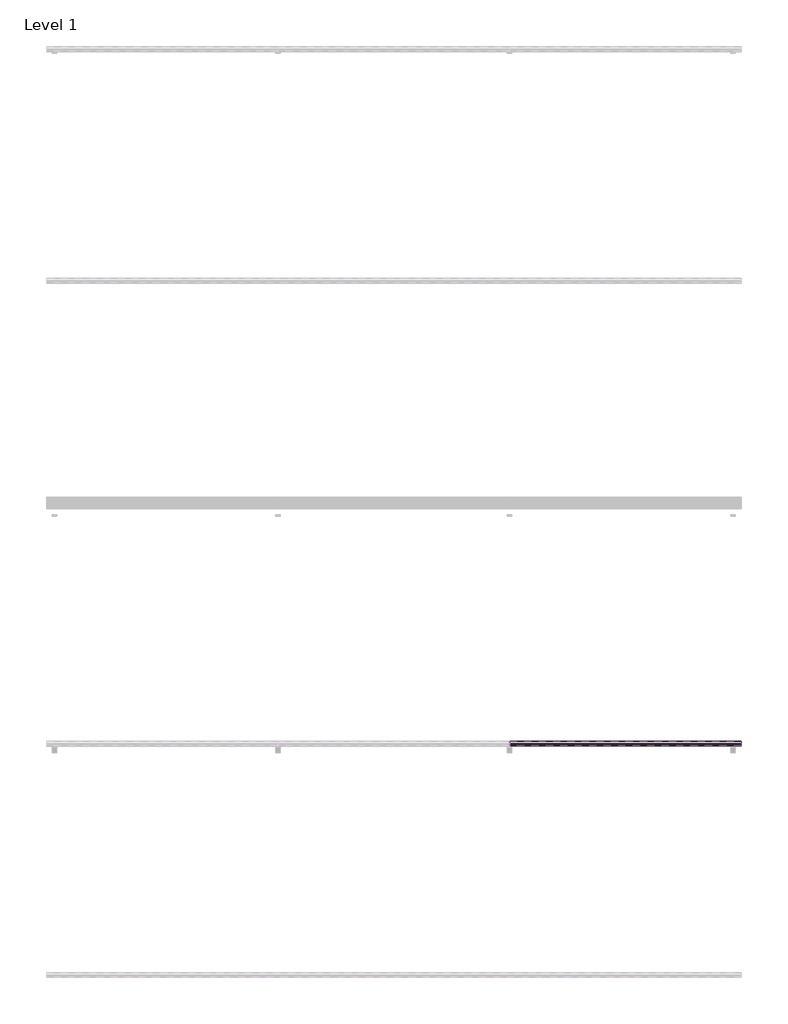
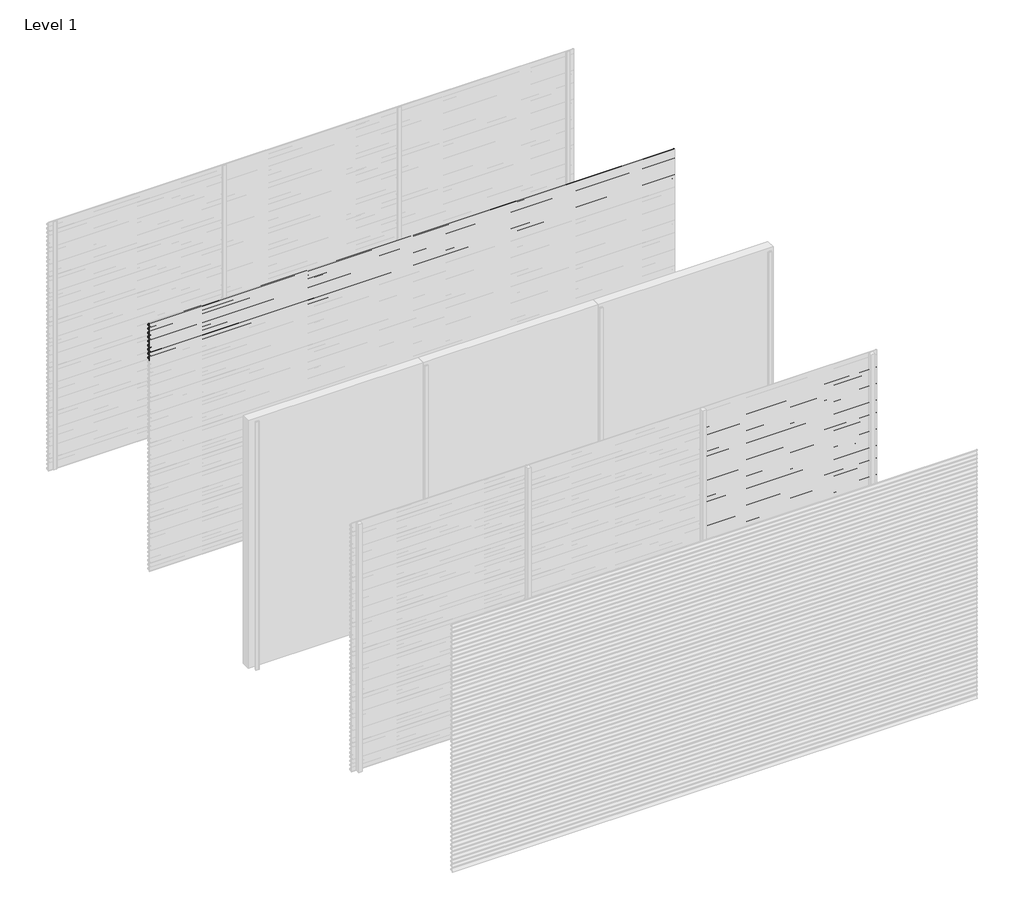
# One storey, part 20 of 38: 66 proxies.
"""IFC4 building model written with IfcOpenShell, lengths in millimetres."""

from ifc_helpers import new_model, si_unit, frame, origin, place, context, project, spatial, polyline, outline, extrude, element, save

model = new_model("IFC4")

# Units and contexts
model_context = context("Model", 3, world=origin())
ifc_project = project(units=[si_unit("LENGTHUNIT", "METRE", prefix="MILLI")], contexts=[model_context])

# Site, building, storey
site = spatial("IfcSite", under=ifc_project)
building = spatial("IfcBuilding", under=site)
storey = spatial("IfcBuildingStorey", under=building, Name="Level 1", Elevation=0.0)

# Proxies
placement = place(None, origin())
element("IfcBuildingElementProxy", 1, Name="Wall Sweeps", at=placement, inside=storey, context=model_context, shape_type="SweptSolid", body=[
    extrude(outline(polyline([(-25996.75, 3000.0), (-25996.75, 2989.19656), (-25974.6057113, 2976.4115489), (-25957.0, 2959.0472005), (-25957.0, 2944.0472005), (-25958.3, 2945.0268207), (-25958.3, 2958.5034593), (-25969.4914725, 2969.541504), (-25994.2797376, 2940.0), (-25995.9767671, 2940.0), (-25970.4200307, 2970.4573323), (-25975.3999793, 2975.3690091), (-25998.0, 2988.4171371), (-25998.0, 3000.0), (-25996.75, 3000.0)])), frame((0.0, 0.0, 0.0), z_axis=(1.0, 0.0, 0.0), x_axis=(0.0, 1.0, 0.0)), (0.0, 0.0, 1.0), 6000.0),
])
element("IfcBuildingElementProxy", 2, Name="Wall Sweeps", at=placement, inside=storey, context=model_context, shape_type="SweptSolid", body=[
    extrude(outline(polyline([(-25996.75, 2950.0), (-25996.75, 2939.19656), (-25974.6057113, 2926.4115489), (-25957.0, 2909.0472005), (-25957.0, 2894.0472005), (-25958.3, 2895.0268207), (-25958.3, 2908.5034593), (-25969.4914725, 2919.541504), (-25994.2797376, 2890.0), (-25995.9767671, 2890.0), (-25970.4200307, 2920.4573323), (-25975.3999793, 2925.3690091), (-25998.0, 2938.4171371), (-25998.0, 2950.0), (-25996.75, 2950.0)])), frame((0.0, 0.0, 0.0), z_axis=(1.0, 0.0, 0.0), x_axis=(0.0, 1.0, 0.0)), (0.0, 0.0, 1.0), 6000.0),
])
element("IfcBuildingElementProxy", 3, Name="Wall Sweeps", at=placement, inside=storey, context=model_context, shape_type="SweptSolid", body=[
    extrude(outline(polyline([(-25996.75, 2900.0), (-25996.75, 2889.19656), (-25974.6057113, 2876.4115489), (-25957.0, 2859.0472005), (-25957.0, 2844.0472005), (-25958.3, 2845.0268207), (-25958.3, 2858.5034593), (-25969.4914725, 2869.541504), (-25994.2797376, 2840.0), (-25995.9767671, 2840.0), (-25970.4200307, 2870.4573323), (-25975.3999793, 2875.3690091), (-25998.0, 2888.4171371), (-25998.0, 2900.0), (-25996.75, 2900.0)])), frame((0.0, 0.0, 0.0), z_axis=(1.0, 0.0, 0.0), x_axis=(0.0, 1.0, 0.0)), (0.0, 0.0, 1.0), 6000.0),
])
element("IfcBuildingElementProxy", 4, Name="Wall Sweeps", at=placement, inside=storey, context=model_context, shape_type="SweptSolid", body=[
    extrude(outline(polyline([(-25996.75, 2850.0), (-25996.75, 2839.19656), (-25974.6057113, 2826.4115489), (-25957.0, 2809.0472005), (-25957.0, 2794.0472005), (-25958.3, 2795.0268207), (-25958.3, 2808.5034593), (-25969.4914725, 2819.541504), (-25994.2797376, 2790.0), (-25995.9767671, 2790.0), (-25970.4200307, 2820.4573323), (-25975.3999793, 2825.3690091), (-25998.0, 2838.4171371), (-25998.0, 2850.0), (-25996.75, 2850.0)])), frame((0.0, 0.0, 0.0), z_axis=(1.0, 0.0, 0.0), x_axis=(0.0, 1.0, 0.0)), (0.0, 0.0, 1.0), 6000.0),
])
element("IfcBuildingElementProxy", 5, Name="Wall Sweeps", at=placement, inside=storey, context=model_context, shape_type="SweptSolid", body=[
    extrude(outline(polyline([(-25996.75, 2800.0), (-25996.75, 2789.19656), (-25974.6057113, 2776.4115489), (-25957.0, 2759.0472005), (-25957.0, 2744.0472005), (-25958.3, 2745.0268207), (-25958.3, 2758.5034593), (-25969.4914725, 2769.541504), (-25994.2797376, 2740.0), (-25995.9767671, 2740.0), (-25970.4200307, 2770.4573323), (-25975.3999793, 2775.3690091), (-25998.0, 2788.4171371), (-25998.0, 2800.0), (-25996.75, 2800.0)])), frame((0.0, 0.0, 0.0), z_axis=(1.0, 0.0, 0.0), x_axis=(0.0, 1.0, 0.0)), (0.0, 0.0, 1.0), 6000.0),
])
element("IfcBuildingElementProxy", 6, Name="Wall Sweeps", at=placement, inside=storey, context=model_context, shape_type="SweptSolid", body=[
    extrude(outline(polyline([(-25996.75, 2750.0), (-25996.75, 2739.19656), (-25974.6057113, 2726.4115489), (-25957.0, 2709.0472005), (-25957.0, 2694.0472005), (-25958.3, 2695.0268207), (-25958.3, 2708.5034593), (-25969.4914725, 2719.541504), (-25994.2797376, 2690.0), (-25995.9767671, 2690.0), (-25970.4200307, 2720.4573323), (-25975.3999793, 2725.3690091), (-25998.0, 2738.4171371), (-25998.0, 2750.0), (-25996.75, 2750.0)])), frame((0.0, 0.0, 0.0), z_axis=(1.0, 0.0, 0.0), x_axis=(0.0, 1.0, 0.0)), (0.0, 0.0, 1.0), 6000.0),
])
element("IfcBuildingElementProxy", 7, Name="Wall Sweeps", at=placement, inside=storey, context=model_context, shape_type="SweptSolid", body=[
    extrude(outline(polyline([(-25996.75, 2700.0), (-25996.75, 2689.19656), (-25974.6057113, 2676.4115489), (-25957.0, 2659.0472005), (-25957.0, 2644.0472005), (-25958.3, 2645.0268207), (-25958.3, 2658.5034593), (-25969.4914725, 2669.541504), (-25994.2797376, 2640.0), (-25995.9767671, 2640.0), (-25970.4200307, 2670.4573323), (-25975.3999793, 2675.3690091), (-25998.0, 2688.4171371), (-25998.0, 2700.0), (-25996.75, 2700.0)])), frame((0.0, 0.0, 0.0), z_axis=(1.0, 0.0, 0.0), x_axis=(0.0, 1.0, 0.0)), (0.0, 0.0, 1.0), 6000.0),
])
element("IfcBuildingElementProxy", 8, Name="Wall Sweeps", at=placement, inside=storey, context=model_context, shape_type="SweptSolid", body=[
    extrude(outline(polyline([(-25996.75, 2650.0), (-25996.75, 2639.19656), (-25974.6057113, 2626.4115489), (-25957.0, 2609.0472005), (-25957.0, 2594.0472005), (-25958.3, 2595.0268207), (-25958.3, 2608.5034593), (-25969.4914725, 2619.541504), (-25994.2797376, 2590.0), (-25995.9767671, 2590.0), (-25970.4200307, 2620.4573323), (-25975.3999793, 2625.3690091), (-25998.0, 2638.4171371), (-25998.0, 2650.0), (-25996.75, 2650.0)])), frame((0.0, 0.0, 0.0), z_axis=(1.0, 0.0, 0.0), x_axis=(0.0, 1.0, 0.0)), (0.0, 0.0, 1.0), 6000.0),
])
element("IfcBuildingElementProxy", 9, Name="Wall Sweeps", at=placement, inside=storey, context=model_context, shape_type="SweptSolid", body=[
    extrude(outline(polyline([(-25996.75, 2600.0), (-25996.75, 2589.19656), (-25974.6057113, 2576.4115489), (-25957.0, 2559.0472005), (-25957.0, 2544.0472005), (-25958.3, 2545.0268207), (-25958.3, 2558.5034593), (-25969.4914725, 2569.541504), (-25994.2797376, 2540.0), (-25995.9767671, 2540.0), (-25970.4200307, 2570.4573323), (-25975.3999793, 2575.3690091), (-25998.0, 2588.4171371), (-25998.0, 2600.0), (-25996.75, 2600.0)])), frame((0.0, 0.0, 0.0), z_axis=(1.0, 0.0, 0.0), x_axis=(0.0, 1.0, 0.0)), (0.0, 0.0, 1.0), 6000.0),
])
element("IfcBuildingElementProxy", 10, Name="Wall Sweeps", at=placement, inside=storey, context=model_context, shape_type="SweptSolid", body=[
    extrude(outline(polyline([(-29996.75, 2850.0), (-29996.75, 2839.19656), (-29974.6057113, 2826.4115489), (-29957.0, 2809.0472005), (-29957.0, 2794.0472005), (-29958.3, 2795.0268207), (-29958.3, 2808.5034593), (-29969.4914725, 2819.541504), (-29994.2797376, 2790.0), (-29995.9767671, 2790.0), (-29970.4200307, 2820.4573323), (-29975.3999793, 2825.3690091), (-29998.0, 2838.4171371), (-29998.0, 2850.0), (-29996.75, 2850.0)])), frame((4000.0, 0.0, 0.0), z_axis=(1.0, 0.0, 0.0), x_axis=(0.0, 1.0, 0.0)), (0.0, 0.0, 1.0), 2000.0),
])
element("IfcBuildingElementProxy", 11, Name="Wall Sweeps", at=placement, inside=storey, context=model_context, shape_type="SweptSolid", body=[
    extrude(outline(polyline([(-29996.75, 2800.0), (-29996.75, 2789.19656), (-29974.6057113, 2776.4115489), (-29957.0, 2759.0472005), (-29957.0, 2744.0472005), (-29958.3, 2745.0268207), (-29958.3, 2758.5034593), (-29969.4914725, 2769.541504), (-29994.2797376, 2740.0), (-29995.9767671, 2740.0), (-29970.4200307, 2770.4573323), (-29975.3999793, 2775.3690091), (-29998.0, 2788.4171371), (-29998.0, 2800.0), (-29996.75, 2800.0)])), frame((4000.0, 0.0, 0.0), z_axis=(1.0, 0.0, 0.0), x_axis=(0.0, 1.0, 0.0)), (0.0, 0.0, 1.0), 2000.0),
])
element("IfcBuildingElementProxy", 12, Name="Wall Sweeps", at=placement, inside=storey, context=model_context, shape_type="SweptSolid", body=[
    extrude(outline(polyline([(-29996.75, 2750.0), (-29996.75, 2739.19656), (-29974.6057113, 2726.4115489), (-29957.0, 2709.0472005), (-29957.0, 2694.0472005), (-29958.3, 2695.0268207), (-29958.3, 2708.5034593), (-29969.4914725, 2719.541504), (-29994.2797376, 2690.0), (-29995.9767671, 2690.0), (-29970.4200307, 2720.4573323), (-29975.3999793, 2725.3690091), (-29998.0, 2738.4171371), (-29998.0, 2750.0), (-29996.75, 2750.0)])), frame((4000.0, 0.0, 0.0), z_axis=(1.0, 0.0, 0.0), x_axis=(0.0, 1.0, 0.0)), (0.0, 0.0, 1.0), 2000.0),
])
element("IfcBuildingElementProxy", 13, Name="Wall Sweeps", at=placement, inside=storey, context=model_context, shape_type="SweptSolid", body=[
    extrude(outline(polyline([(-29996.75, 2700.0), (-29996.75, 2689.19656), (-29974.6057113, 2676.4115489), (-29957.0, 2659.0472005), (-29957.0, 2644.0472005), (-29958.3, 2645.0268207), (-29958.3, 2658.5034593), (-29969.4914725, 2669.541504), (-29994.2797376, 2640.0), (-29995.9767671, 2640.0), (-29970.4200307, 2670.4573323), (-29975.3999793, 2675.3690091), (-29998.0, 2688.4171371), (-29998.0, 2700.0), (-29996.75, 2700.0)])), frame((4000.0, 0.0, 0.0), z_axis=(1.0, 0.0, 0.0), x_axis=(0.0, 1.0, 0.0)), (0.0, 0.0, 1.0), 2000.0),
])
element("IfcBuildingElementProxy", 14, Name="Wall Sweeps", at=placement, inside=storey, context=model_context, shape_type="SweptSolid", body=[
    extrude(outline(polyline([(-29996.75, 2650.0), (-29996.75, 2639.19656), (-29974.6057113, 2626.4115489), (-29957.0, 2609.0472005), (-29957.0, 2594.0472005), (-29958.3, 2595.0268207), (-29958.3, 2608.5034593), (-29969.4914725, 2619.541504), (-29994.2797376, 2590.0), (-29995.9767671, 2590.0), (-29970.4200307, 2620.4573323), (-29975.3999793, 2625.3690091), (-29998.0, 2638.4171371), (-29998.0, 2650.0), (-29996.75, 2650.0)])), frame((4000.0, 0.0, 0.0), z_axis=(1.0, 0.0, 0.0), x_axis=(0.0, 1.0, 0.0)), (0.0, 0.0, 1.0), 2000.0),
])
element("IfcBuildingElementProxy", 15, Name="Wall Sweeps", at=placement, inside=storey, context=model_context, shape_type="SweptSolid", body=[
    extrude(outline(polyline([(-29996.75, 2600.0), (-29996.75, 2589.19656), (-29974.6057113, 2576.4115489), (-29957.0, 2559.0472005), (-29957.0, 2544.0472005), (-29958.3, 2545.0268207), (-29958.3, 2558.5034593), (-29969.4914725, 2569.541504), (-29994.2797376, 2540.0), (-29995.9767671, 2540.0), (-29970.4200307, 2570.4573323), (-29975.3999793, 2575.3690091), (-29998.0, 2588.4171371), (-29998.0, 2600.0), (-29996.75, 2600.0)])), frame((4000.0, 0.0, 0.0), z_axis=(1.0, 0.0, 0.0), x_axis=(0.0, 1.0, 0.0)), (0.0, 0.0, 1.0), 2000.0),
])
element("IfcBuildingElementProxy", 16, Name="Wall Sweeps", at=placement, inside=storey, context=model_context, shape_type="SweptSolid", body=[
    extrude(outline(polyline([(-29996.75, 2550.0), (-29996.75, 2539.19656), (-29974.6057113, 2526.4115489), (-29957.0, 2509.0472005), (-29957.0, 2494.0472005), (-29958.3, 2495.0268207), (-29958.3, 2508.5034593), (-29969.4914725, 2519.541504), (-29994.2797376, 2490.0), (-29995.9767671, 2490.0), (-29970.4200307, 2520.4573323), (-29975.3999793, 2525.3690091), (-29998.0, 2538.4171371), (-29998.0, 2550.0), (-29996.75, 2550.0)])), frame((4000.0, 0.0, 0.0), z_axis=(1.0, 0.0, 0.0), x_axis=(0.0, 1.0, 0.0)), (0.0, 0.0, 1.0), 2000.0),
])
element("IfcBuildingElementProxy", 17, Name="Wall Sweeps", at=placement, inside=storey, context=model_context, shape_type="SweptSolid", body=[
    extrude(outline(polyline([(-29996.75, 2500.0), (-29996.75, 2489.19656), (-29974.6057113, 2476.4115489), (-29957.0, 2459.0472005), (-29957.0, 2444.0472005), (-29958.3, 2445.0268207), (-29958.3, 2458.5034593), (-29969.4914725, 2469.541504), (-29994.2797376, 2440.0), (-29995.9767671, 2440.0), (-29970.4200307, 2470.4573323), (-29975.3999793, 2475.3690091), (-29998.0, 2488.4171371), (-29998.0, 2500.0), (-29996.75, 2500.0)])), frame((4000.0, 0.0, 0.0), z_axis=(1.0, 0.0, 0.0), x_axis=(0.0, 1.0, 0.0)), (0.0, 0.0, 1.0), 2000.0),
])
element("IfcBuildingElementProxy", 18, Name="Wall Sweeps", at=placement, inside=storey, context=model_context, shape_type="SweptSolid", body=[
    extrude(outline(polyline([(-29996.75, 2450.0), (-29996.75, 2439.19656), (-29974.6057113, 2426.4115489), (-29957.0, 2409.0472005), (-29957.0, 2394.0472005), (-29958.3, 2395.0268207), (-29958.3, 2408.5034593), (-29969.4914725, 2419.541504), (-29994.2797376, 2390.0), (-29995.9767671, 2390.0), (-29970.4200307, 2420.4573323), (-29975.3999793, 2425.3690091), (-29998.0, 2438.4171371), (-29998.0, 2450.0), (-29996.75, 2450.0)])), frame((4000.0, 0.0, 0.0), z_axis=(1.0, 0.0, 0.0), x_axis=(0.0, 1.0, 0.0)), (0.0, 0.0, 1.0), 2000.0),
])
element("IfcBuildingElementProxy", 19, Name="Wall Sweeps", at=placement, inside=storey, context=model_context, shape_type="SweptSolid", body=[
    extrude(outline(polyline([(-29996.75, 2400.0), (-29996.75, 2389.19656), (-29974.6057113, 2376.4115489), (-29957.0, 2359.0472005), (-29957.0, 2344.0472005), (-29958.3, 2345.0268207), (-29958.3, 2358.5034593), (-29969.4914725, 2369.541504), (-29994.2797376, 2340.0), (-29995.9767671, 2340.0), (-29970.4200307, 2370.4573323), (-29975.3999793, 2375.3690091), (-29998.0, 2388.4171371), (-29998.0, 2400.0), (-29996.75, 2400.0)])), frame((4000.0, 0.0, 0.0), z_axis=(1.0, 0.0, 0.0), x_axis=(0.0, 1.0, 0.0)), (0.0, 0.0, 1.0), 2000.0),
])
element("IfcBuildingElementProxy", 20, Name="Wall Sweeps", at=placement, inside=storey, context=model_context, shape_type="SweptSolid", body=[
    extrude(outline(polyline([(-29996.75, 2350.0), (-29996.75, 2339.19656), (-29974.6057113, 2326.4115489), (-29957.0, 2309.0472005), (-29957.0, 2294.0472005), (-29958.3, 2295.0268207), (-29958.3, 2308.5034593), (-29969.4914725, 2319.541504), (-29994.2797376, 2290.0), (-29995.9767671, 2290.0), (-29970.4200307, 2320.4573323), (-29975.3999793, 2325.3690091), (-29998.0, 2338.4171371), (-29998.0, 2350.0), (-29996.75, 2350.0)])), frame((4000.0, 0.0, 0.0), z_axis=(1.0, 0.0, 0.0), x_axis=(0.0, 1.0, 0.0)), (0.0, 0.0, 1.0), 2000.0),
])
element("IfcBuildingElementProxy", 21, Name="Wall Sweeps", at=placement, inside=storey, context=model_context, shape_type="SweptSolid", body=[
    extrude(outline(polyline([(-29996.75, 2300.0), (-29996.75, 2289.19656), (-29974.6057113, 2276.4115489), (-29957.0, 2259.0472005), (-29957.0, 2244.0472005), (-29958.3, 2245.0268207), (-29958.3, 2258.5034593), (-29969.4914725, 2269.541504), (-29994.2797376, 2240.0), (-29995.9767671, 2240.0), (-29970.4200307, 2270.4573323), (-29975.3999793, 2275.3690091), (-29998.0, 2288.4171371), (-29998.0, 2300.0), (-29996.75, 2300.0)])), frame((4000.0, 0.0, 0.0), z_axis=(1.0, 0.0, 0.0), x_axis=(0.0, 1.0, 0.0)), (0.0, 0.0, 1.0), 2000.0),
])
element("IfcBuildingElementProxy", 22, Name="Wall Sweeps", at=placement, inside=storey, context=model_context, shape_type="SweptSolid", body=[
    extrude(outline(polyline([(-29996.75, 2250.0), (-29996.75, 2239.19656), (-29974.6057113, 2226.4115489), (-29957.0, 2209.0472005), (-29957.0, 2194.0472005), (-29958.3, 2195.0268207), (-29958.3, 2208.5034593), (-29969.4914725, 2219.541504), (-29994.2797376, 2190.0), (-29995.9767671, 2190.0), (-29970.4200307, 2220.4573323), (-29975.3999793, 2225.3690091), (-29998.0, 2238.4171371), (-29998.0, 2250.0), (-29996.75, 2250.0)])), frame((4000.0, 0.0, 0.0), z_axis=(1.0, 0.0, 0.0), x_axis=(0.0, 1.0, 0.0)), (0.0, 0.0, 1.0), 2000.0),
])
element("IfcBuildingElementProxy", 23, Name="Wall Sweeps", at=placement, inside=storey, context=model_context, shape_type="SweptSolid", body=[
    extrude(outline(polyline([(-29996.75, 2200.0), (-29996.75, 2189.19656), (-29974.6057113, 2176.4115489), (-29957.0, 2159.0472005), (-29957.0, 2144.0472005), (-29958.3, 2145.0268207), (-29958.3, 2158.5034593), (-29969.4914725, 2169.541504), (-29994.2797376, 2140.0), (-29995.9767671, 2140.0), (-29970.4200307, 2170.4573323), (-29975.3999793, 2175.3690091), (-29998.0, 2188.4171371), (-29998.0, 2200.0), (-29996.75, 2200.0)])), frame((4000.0, 0.0, 0.0), z_axis=(1.0, 0.0, 0.0), x_axis=(0.0, 1.0, 0.0)), (0.0, 0.0, 1.0), 2000.0),
])
element("IfcBuildingElementProxy", 24, Name="Wall Sweeps", at=placement, inside=storey, context=model_context, shape_type="SweptSolid", body=[
    extrude(outline(polyline([(-29996.75, 2150.0), (-29996.75, 2139.19656), (-29974.6057113, 2126.4115489), (-29957.0, 2109.0472005), (-29957.0, 2094.0472005), (-29958.3, 2095.0268207), (-29958.3, 2108.5034593), (-29969.4914725, 2119.541504), (-29994.2797376, 2090.0), (-29995.9767671, 2090.0), (-29970.4200307, 2120.4573323), (-29975.3999793, 2125.3690091), (-29998.0, 2138.4171371), (-29998.0, 2150.0), (-29996.75, 2150.0)])), frame((4000.0, 0.0, 0.0), z_axis=(1.0, 0.0, 0.0), x_axis=(0.0, 1.0, 0.0)), (0.0, 0.0, 1.0), 2000.0),
])
element("IfcBuildingElementProxy", 25, Name="Wall Sweeps", at=placement, inside=storey, context=model_context, shape_type="SweptSolid", body=[
    extrude(outline(polyline([(-29996.75, 2100.0), (-29996.75, 2089.19656), (-29974.6057113, 2076.4115489), (-29957.0, 2059.0472005), (-29957.0, 2044.0472005), (-29958.3, 2045.0268207), (-29958.3, 2058.5034593), (-29969.4914725, 2069.541504), (-29994.2797376, 2040.0), (-29995.9767671, 2040.0), (-29970.4200307, 2070.4573323), (-29975.3999793, 2075.3690091), (-29998.0, 2088.4171371), (-29998.0, 2100.0), (-29996.75, 2100.0)])), frame((4000.0, 0.0, 0.0), z_axis=(1.0, 0.0, 0.0), x_axis=(0.0, 1.0, 0.0)), (0.0, 0.0, 1.0), 2000.0),
])
element("IfcBuildingElementProxy", 26, Name="Wall Sweeps", at=placement, inside=storey, context=model_context, shape_type="SweptSolid", body=[
    extrude(outline(polyline([(-29996.75, 2050.0), (-29996.75, 2039.19656), (-29974.6057113, 2026.4115489), (-29957.0, 2009.0472005), (-29957.0, 1994.0472005), (-29958.3, 1995.0268207), (-29958.3, 2008.5034593), (-29969.4914725, 2019.541504), (-29994.2797376, 1990.0), (-29995.9767671, 1990.0), (-29970.4200307, 2020.4573323), (-29975.3999793, 2025.3690091), (-29998.0, 2038.4171371), (-29998.0, 2050.0), (-29996.75, 2050.0)])), frame((4000.0, 0.0, 0.0), z_axis=(1.0, 0.0, 0.0), x_axis=(0.0, 1.0, 0.0)), (0.0, 0.0, 1.0), 2000.0),
])
element("IfcBuildingElementProxy", 27, Name="Wall Sweeps", at=placement, inside=storey, context=model_context, shape_type="SweptSolid", body=[
    extrude(outline(polyline([(-29996.75, 2000.0), (-29996.75, 1989.19656), (-29974.6057113, 1976.4115489), (-29957.0, 1959.0472005), (-29957.0, 1944.0472005), (-29958.3, 1945.0268207), (-29958.3, 1958.5034593), (-29969.4914725, 1969.541504), (-29994.2797376, 1940.0), (-29995.9767671, 1940.0), (-29970.4200307, 1970.4573323), (-29975.3999793, 1975.3690091), (-29998.0, 1988.4171371), (-29998.0, 2000.0), (-29996.75, 2000.0)])), frame((4000.0, 0.0, 0.0), z_axis=(1.0, 0.0, 0.0), x_axis=(0.0, 1.0, 0.0)), (0.0, 0.0, 1.0), 2000.0),
])
element("IfcBuildingElementProxy", 28, Name="Wall Sweeps", at=placement, inside=storey, context=model_context, shape_type="SweptSolid", body=[
    extrude(outline(polyline([(-29996.75, 1950.0), (-29996.75, 1939.19656), (-29974.6057113, 1926.4115489), (-29957.0, 1909.0472005), (-29957.0, 1894.0472005), (-29958.3, 1895.0268207), (-29958.3, 1908.5034593), (-29969.4914725, 1919.541504), (-29994.2797376, 1890.0), (-29995.9767671, 1890.0), (-29970.4200307, 1920.4573323), (-29975.3999793, 1925.3690091), (-29998.0, 1938.4171371), (-29998.0, 1950.0), (-29996.75, 1950.0)])), frame((4000.0, 0.0, 0.0), z_axis=(1.0, 0.0, 0.0), x_axis=(0.0, 1.0, 0.0)), (0.0, 0.0, 1.0), 2000.0),
])
element("IfcBuildingElementProxy", 29, Name="Wall Sweeps", at=placement, inside=storey, context=model_context, shape_type="SweptSolid", body=[
    extrude(outline(polyline([(-29996.75, 1900.0), (-29996.75, 1889.19656), (-29974.6057113, 1876.4115489), (-29957.0, 1859.0472005), (-29957.0, 1844.0472005), (-29958.3, 1845.0268207), (-29958.3, 1858.5034593), (-29969.4914725, 1869.541504), (-29994.2797376, 1840.0), (-29995.9767671, 1840.0), (-29970.4200307, 1870.4573323), (-29975.3999793, 1875.3690091), (-29998.0, 1888.4171371), (-29998.0, 1900.0), (-29996.75, 1900.0)])), frame((4000.0, 0.0, 0.0), z_axis=(1.0, 0.0, 0.0), x_axis=(0.0, 1.0, 0.0)), (0.0, 0.0, 1.0), 2000.0),
])
element("IfcBuildingElementProxy", 30, Name="Wall Sweeps", at=placement, inside=storey, context=model_context, shape_type="SweptSolid", body=[
    extrude(outline(polyline([(-29996.75, 1850.0), (-29996.75, 1839.19656), (-29974.6057113, 1826.4115489), (-29957.0, 1809.0472005), (-29957.0, 1794.0472005), (-29958.3, 1795.0268207), (-29958.3, 1808.5034593), (-29969.4914725, 1819.541504), (-29994.2797376, 1790.0), (-29995.9767671, 1790.0), (-29970.4200307, 1820.4573323), (-29975.3999793, 1825.3690091), (-29998.0, 1838.4171371), (-29998.0, 1850.0), (-29996.75, 1850.0)])), frame((4000.0, 0.0, 0.0), z_axis=(1.0, 0.0, 0.0), x_axis=(0.0, 1.0, 0.0)), (0.0, 0.0, 1.0), 2000.0),
])
element("IfcBuildingElementProxy", 31, Name="Wall Sweeps", at=placement, inside=storey, context=model_context, shape_type="SweptSolid", body=[
    extrude(outline(polyline([(-29996.75, 1800.0), (-29996.75, 1789.19656), (-29974.6057113, 1776.4115489), (-29957.0, 1759.0472005), (-29957.0, 1744.0472005), (-29958.3, 1745.0268207), (-29958.3, 1758.5034593), (-29969.4914725, 1769.541504), (-29994.2797376, 1740.0), (-29995.9767671, 1740.0), (-29970.4200307, 1770.4573323), (-29975.3999793, 1775.3690091), (-29998.0, 1788.4171371), (-29998.0, 1800.0), (-29996.75, 1800.0)])), frame((4000.0, 0.0, 0.0), z_axis=(1.0, 0.0, 0.0), x_axis=(0.0, 1.0, 0.0)), (0.0, 0.0, 1.0), 2000.0),
])
element("IfcBuildingElementProxy", 32, Name="Wall Sweeps", at=placement, inside=storey, context=model_context, shape_type="SweptSolid", body=[
    extrude(outline(polyline([(-29996.75, 1750.0), (-29996.75, 1739.19656), (-29974.6057113, 1726.4115489), (-29957.0, 1709.0472005), (-29957.0, 1694.0472005), (-29958.3, 1695.0268207), (-29958.3, 1708.5034593), (-29969.4914725, 1719.541504), (-29994.2797376, 1690.0), (-29995.9767671, 1690.0), (-29970.4200307, 1720.4573323), (-29975.3999793, 1725.3690091), (-29998.0, 1738.4171371), (-29998.0, 1750.0), (-29996.75, 1750.0)])), frame((4000.0, 0.0, 0.0), z_axis=(1.0, 0.0, 0.0), x_axis=(0.0, 1.0, 0.0)), (0.0, 0.0, 1.0), 2000.0),
])
element("IfcBuildingElementProxy", 33, Name="Wall Sweeps", at=placement, inside=storey, context=model_context, shape_type="SweptSolid", body=[
    extrude(outline(polyline([(-29996.75, 1700.0), (-29996.75, 1689.19656), (-29974.6057113, 1676.4115489), (-29957.0, 1659.0472005), (-29957.0, 1644.0472005), (-29958.3, 1645.0268207), (-29958.3, 1658.5034593), (-29969.4914725, 1669.541504), (-29994.2797376, 1640.0), (-29995.9767671, 1640.0), (-29970.4200307, 1670.4573323), (-29975.3999793, 1675.3690091), (-29998.0, 1688.4171371), (-29998.0, 1700.0), (-29996.75, 1700.0)])), frame((4000.0, 0.0, 0.0), z_axis=(1.0, 0.0, 0.0), x_axis=(0.0, 1.0, 0.0)), (0.0, 0.0, 1.0), 2000.0),
])
element("IfcBuildingElementProxy", 34, Name="Wall Sweeps", at=placement, inside=storey, context=model_context, shape_type="SweptSolid", body=[
    extrude(outline(polyline([(-29996.75, 1650.0), (-29996.75, 1639.19656), (-29974.6057113, 1626.4115489), (-29957.0, 1609.0472005), (-29957.0, 1594.0472005), (-29958.3, 1595.0268207), (-29958.3, 1608.5034593), (-29969.4914725, 1619.541504), (-29994.2797376, 1590.0), (-29995.9767671, 1590.0), (-29970.4200307, 1620.4573323), (-29975.3999793, 1625.3690091), (-29998.0, 1638.4171371), (-29998.0, 1650.0), (-29996.75, 1650.0)])), frame((4000.0, 0.0, 0.0), z_axis=(1.0, 0.0, 0.0), x_axis=(0.0, 1.0, 0.0)), (0.0, 0.0, 1.0), 2000.0),
])
element("IfcBuildingElementProxy", 35, Name="Wall Sweeps", at=placement, inside=storey, context=model_context, shape_type="SweptSolid", body=[
    extrude(outline(polyline([(-29996.75, 1600.0), (-29996.75, 1589.19656), (-29974.6057113, 1576.4115489), (-29957.0, 1559.0472005), (-29957.0, 1544.0472005), (-29958.3, 1545.0268207), (-29958.3, 1558.5034593), (-29969.4914725, 1569.541504), (-29994.2797376, 1540.0), (-29995.9767671, 1540.0), (-29970.4200307, 1570.4573323), (-29975.3999793, 1575.3690091), (-29998.0, 1588.4171371), (-29998.0, 1600.0), (-29996.75, 1600.0)])), frame((4000.0, 0.0, 0.0), z_axis=(1.0, 0.0, 0.0), x_axis=(0.0, 1.0, 0.0)), (0.0, 0.0, 1.0), 2000.0),
])
element("IfcBuildingElementProxy", 36, Name="Wall Sweeps", at=placement, inside=storey, context=model_context, shape_type="SweptSolid", body=[
    extrude(outline(polyline([(-29996.75, 1550.0), (-29996.75, 1539.19656), (-29974.6057113, 1526.4115489), (-29957.0, 1509.0472005), (-29957.0, 1494.0472005), (-29958.3, 1495.0268207), (-29958.3, 1508.5034593), (-29969.4914725, 1519.541504), (-29994.2797376, 1490.0), (-29995.9767671, 1490.0), (-29970.4200307, 1520.4573323), (-29975.3999793, 1525.3690091), (-29998.0, 1538.4171371), (-29998.0, 1550.0), (-29996.75, 1550.0)])), frame((4000.0, 0.0, 0.0), z_axis=(1.0, 0.0, 0.0), x_axis=(0.0, 1.0, 0.0)), (0.0, 0.0, 1.0), 2000.0),
])
element("IfcBuildingElementProxy", 37, Name="Wall Sweeps", at=placement, inside=storey, context=model_context, shape_type="SweptSolid", body=[
    extrude(outline(polyline([(-29996.75, 1500.0), (-29996.75, 1489.19656), (-29974.6057113, 1476.4115489), (-29957.0, 1459.0472005), (-29957.0, 1444.0472005), (-29958.3, 1445.0268207), (-29958.3, 1458.5034593), (-29969.4914725, 1469.541504), (-29994.2797376, 1440.0), (-29995.9767671, 1440.0), (-29970.4200307, 1470.4573323), (-29975.3999793, 1475.3690091), (-29998.0, 1488.4171371), (-29998.0, 1500.0), (-29996.75, 1500.0)])), frame((4000.0, 0.0, 0.0), z_axis=(1.0, 0.0, 0.0), x_axis=(0.0, 1.0, 0.0)), (0.0, 0.0, 1.0), 2000.0),
])
element("IfcBuildingElementProxy", 38, Name="Wall Sweeps", at=placement, inside=storey, context=model_context, shape_type="SweptSolid", body=[
    extrude(outline(polyline([(-29996.75, 1450.0), (-29996.75, 1439.19656), (-29974.6057113, 1426.4115489), (-29957.0, 1409.0472005), (-29957.0, 1394.0472005), (-29958.3, 1395.0268207), (-29958.3, 1408.5034593), (-29969.4914725, 1419.541504), (-29994.2797376, 1390.0), (-29995.9767671, 1390.0), (-29970.4200307, 1420.4573323), (-29975.3999793, 1425.3690091), (-29998.0, 1438.4171371), (-29998.0, 1450.0), (-29996.75, 1450.0)])), frame((4000.0, 0.0, 0.0), z_axis=(1.0, 0.0, 0.0), x_axis=(0.0, 1.0, 0.0)), (0.0, 0.0, 1.0), 2000.0),
])
element("IfcBuildingElementProxy", 39, Name="Wall Sweeps", at=placement, inside=storey, context=model_context, shape_type="SweptSolid", body=[
    extrude(outline(polyline([(-29996.75, 1400.0), (-29996.75, 1389.19656), (-29974.6057113, 1376.4115489), (-29957.0, 1359.0472005), (-29957.0, 1344.0472005), (-29958.3, 1345.0268207), (-29958.3, 1358.5034593), (-29969.4914725, 1369.541504), (-29994.2797376, 1340.0), (-29995.9767671, 1340.0), (-29970.4200307, 1370.4573323), (-29975.3999793, 1375.3690091), (-29998.0, 1388.4171371), (-29998.0, 1400.0), (-29996.75, 1400.0)])), frame((4000.0, 0.0, 0.0), z_axis=(1.0, 0.0, 0.0), x_axis=(0.0, 1.0, 0.0)), (0.0, 0.0, 1.0), 2000.0),
])
element("IfcBuildingElementProxy", 40, Name="Wall Sweeps", at=placement, inside=storey, context=model_context, shape_type="SweptSolid", body=[
    extrude(outline(polyline([(-29996.75, 1350.0), (-29996.75, 1339.19656), (-29974.6057113, 1326.4115489), (-29957.0, 1309.0472005), (-29957.0, 1294.0472005), (-29958.3, 1295.0268207), (-29958.3, 1308.5034593), (-29969.4914725, 1319.541504), (-29994.2797376, 1290.0), (-29995.9767671, 1290.0), (-29970.4200307, 1320.4573323), (-29975.3999793, 1325.3690091), (-29998.0, 1338.4171371), (-29998.0, 1350.0), (-29996.75, 1350.0)])), frame((4000.0, 0.0, 0.0), z_axis=(1.0, 0.0, 0.0), x_axis=(0.0, 1.0, 0.0)), (0.0, 0.0, 1.0), 2000.0),
])
element("IfcBuildingElementProxy", 41, Name="Wall Sweeps", at=placement, inside=storey, context=model_context, shape_type="SweptSolid", body=[
    extrude(outline(polyline([(-29996.75, 1300.0), (-29996.75, 1289.19656), (-29974.6057113, 1276.4115489), (-29957.0, 1259.0472005), (-29957.0, 1244.0472005), (-29958.3, 1245.0268207), (-29958.3, 1258.5034593), (-29969.4914725, 1269.541504), (-29994.2797376, 1240.0), (-29995.9767671, 1240.0), (-29970.4200307, 1270.4573323), (-29975.3999793, 1275.3690091), (-29998.0, 1288.4171371), (-29998.0, 1300.0), (-29996.75, 1300.0)])), frame((4000.0, 0.0, 0.0), z_axis=(1.0, 0.0, 0.0), x_axis=(0.0, 1.0, 0.0)), (0.0, 0.0, 1.0), 2000.0),
])
element("IfcBuildingElementProxy", 42, Name="Wall Sweeps", at=placement, inside=storey, context=model_context, shape_type="SweptSolid", body=[
    extrude(outline(polyline([(-29996.75, 1250.0), (-29996.75, 1239.19656), (-29974.6057113, 1226.4115489), (-29957.0, 1209.0472005), (-29957.0, 1194.0472005), (-29958.3, 1195.0268207), (-29958.3, 1208.5034593), (-29969.4914725, 1219.541504), (-29994.2797376, 1190.0), (-29995.9767671, 1190.0), (-29970.4200307, 1220.4573323), (-29975.3999793, 1225.3690091), (-29998.0, 1238.4171371), (-29998.0, 1250.0), (-29996.75, 1250.0)])), frame((4000.0, 0.0, 0.0), z_axis=(1.0, 0.0, 0.0), x_axis=(0.0, 1.0, 0.0)), (0.0, 0.0, 1.0), 2000.0),
])
element("IfcBuildingElementProxy", 43, Name="Wall Sweeps", at=placement, inside=storey, context=model_context, shape_type="SweptSolid", body=[
    extrude(outline(polyline([(-29996.75, 1200.0), (-29996.75, 1189.19656), (-29974.6057113, 1176.4115489), (-29957.0, 1159.0472005), (-29957.0, 1144.0472005), (-29958.3, 1145.0268207), (-29958.3, 1158.5034593), (-29969.4914725, 1169.541504), (-29994.2797376, 1140.0), (-29995.9767671, 1140.0), (-29970.4200307, 1170.4573323), (-29975.3999793, 1175.3690091), (-29998.0, 1188.4171371), (-29998.0, 1200.0), (-29996.75, 1200.0)])), frame((4000.0, 0.0, 0.0), z_axis=(1.0, 0.0, 0.0), x_axis=(0.0, 1.0, 0.0)), (0.0, 0.0, 1.0), 2000.0),
])
element("IfcBuildingElementProxy", 44, Name="Wall Sweeps", at=placement, inside=storey, context=model_context, shape_type="SweptSolid", body=[
    extrude(outline(polyline([(-29996.75, 1150.0), (-29996.75, 1139.19656), (-29974.6057113, 1126.4115489), (-29957.0, 1109.0472005), (-29957.0, 1094.0472005), (-29958.3, 1095.0268207), (-29958.3, 1108.5034593), (-29969.4914725, 1119.541504), (-29994.2797376, 1090.0), (-29995.9767671, 1090.0), (-29970.4200307, 1120.4573323), (-29975.3999793, 1125.3690091), (-29998.0, 1138.4171371), (-29998.0, 1150.0), (-29996.75, 1150.0)])), frame((4000.0, 0.0, 0.0), z_axis=(1.0, 0.0, 0.0), x_axis=(0.0, 1.0, 0.0)), (0.0, 0.0, 1.0), 2000.0),
])
element("IfcBuildingElementProxy", 45, Name="Wall Sweeps", at=placement, inside=storey, context=model_context, shape_type="SweptSolid", body=[
    extrude(outline(polyline([(-29996.75, 1100.0), (-29996.75, 1089.19656), (-29974.6057113, 1076.4115489), (-29957.0, 1059.0472005), (-29957.0, 1044.0472005), (-29958.3, 1045.0268207), (-29958.3, 1058.5034593), (-29969.4914725, 1069.541504), (-29994.2797376, 1040.0), (-29995.9767671, 1040.0), (-29970.4200307, 1070.4573323), (-29975.3999793, 1075.3690091), (-29998.0, 1088.4171371), (-29998.0, 1100.0), (-29996.75, 1100.0)])), frame((4000.0, 0.0, 0.0), z_axis=(1.0, 0.0, 0.0), x_axis=(0.0, 1.0, 0.0)), (0.0, 0.0, 1.0), 2000.0),
])
element("IfcBuildingElementProxy", 46, Name="Wall Sweeps", at=placement, inside=storey, context=model_context, shape_type="SweptSolid", body=[
    extrude(outline(polyline([(-29996.75, 1050.0), (-29996.75, 1039.19656), (-29974.6057113, 1026.4115489), (-29957.0, 1009.0472005), (-29957.0, 994.0472005), (-29958.3, 995.0268207), (-29958.3, 1008.5034593), (-29969.4914725, 1019.541504), (-29994.2797376, 990.0), (-29995.9767671, 990.0), (-29970.4200307, 1020.4573323), (-29975.3999793, 1025.3690091), (-29998.0, 1038.4171371), (-29998.0, 1050.0), (-29996.75, 1050.0)])), frame((4000.0, 0.0, 0.0), z_axis=(1.0, 0.0, 0.0), x_axis=(0.0, 1.0, 0.0)), (0.0, 0.0, 1.0), 2000.0),
])
element("IfcBuildingElementProxy", 47, Name="Wall Sweeps", at=placement, inside=storey, context=model_context, shape_type="SweptSolid", body=[
    extrude(outline(polyline([(-29996.75, 1000.0), (-29996.75, 989.19656), (-29974.6057113, 976.4115489), (-29957.0, 959.0472005), (-29957.0, 944.0472005), (-29958.3, 945.0268207), (-29958.3, 958.5034593), (-29969.4914725, 969.541504), (-29994.2797376, 940.0), (-29995.9767671, 940.0), (-29970.4200307, 970.4573323), (-29975.3999793, 975.3690091), (-29998.0, 988.4171371), (-29998.0, 1000.0), (-29996.75, 1000.0)])), frame((4000.0, 0.0, 0.0), z_axis=(1.0, 0.0, 0.0), x_axis=(0.0, 1.0, 0.0)), (0.0, 0.0, 1.0), 2000.0),
])
element("IfcBuildingElementProxy", 48, Name="Wall Sweeps", at=placement, inside=storey, context=model_context, shape_type="SweptSolid", body=[
    extrude(outline(polyline([(-29996.75, 950.0), (-29996.75, 939.19656), (-29974.6057113, 926.4115489), (-29957.0, 909.0472005), (-29957.0, 894.0472005), (-29958.3, 895.0268207), (-29958.3, 908.5034593), (-29969.4914725, 919.541504), (-29994.2797376, 890.0), (-29995.9767671, 890.0), (-29970.4200307, 920.4573323), (-29975.3999793, 925.3690091), (-29998.0, 938.4171371), (-29998.0, 950.0), (-29996.75, 950.0)])), frame((4000.0, 0.0, 0.0), z_axis=(1.0, 0.0, 0.0), x_axis=(0.0, 1.0, 0.0)), (0.0, 0.0, 1.0), 2000.0),
])
element("IfcBuildingElementProxy", 49, Name="Wall Sweeps", at=placement, inside=storey, context=model_context, shape_type="SweptSolid", body=[
    extrude(outline(polyline([(-29996.75, 900.0), (-29996.75, 889.19656), (-29974.6057113, 876.4115489), (-29957.0, 859.0472005), (-29957.0, 844.0472005), (-29958.3, 845.0268207), (-29958.3, 858.5034593), (-29969.4914725, 869.541504), (-29994.2797376, 840.0), (-29995.9767671, 840.0), (-29970.4200307, 870.4573323), (-29975.3999793, 875.3690091), (-29998.0, 888.4171371), (-29998.0, 900.0), (-29996.75, 900.0)])), frame((4000.0, 0.0, 0.0), z_axis=(1.0, 0.0, 0.0), x_axis=(0.0, 1.0, 0.0)), (0.0, 0.0, 1.0), 2000.0),
])
element("IfcBuildingElementProxy", 50, Name="Wall Sweeps", at=placement, inside=storey, context=model_context, shape_type="SweptSolid", body=[
    extrude(outline(polyline([(-29996.75, 850.0), (-29996.75, 839.19656), (-29974.6057113, 826.4115489), (-29957.0, 809.0472005), (-29957.0, 794.0472005), (-29958.3, 795.0268207), (-29958.3, 808.5034593), (-29969.4914725, 819.541504), (-29994.2797376, 790.0), (-29995.9767671, 790.0), (-29970.4200307, 820.4573323), (-29975.3999793, 825.3690091), (-29998.0, 838.4171371), (-29998.0, 850.0), (-29996.75, 850.0)])), frame((4000.0, 0.0, 0.0), z_axis=(1.0, 0.0, 0.0), x_axis=(0.0, 1.0, 0.0)), (0.0, 0.0, 1.0), 2000.0),
])
element("IfcBuildingElementProxy", 51, Name="Wall Sweeps", at=placement, inside=storey, context=model_context, shape_type="SweptSolid", body=[
    extrude(outline(polyline([(-29996.75, 800.0), (-29996.75, 789.19656), (-29974.6057113, 776.4115489), (-29957.0, 759.0472005), (-29957.0, 744.0472005), (-29958.3, 745.0268207), (-29958.3, 758.5034593), (-29969.4914725, 769.541504), (-29994.2797376, 740.0), (-29995.9767671, 740.0), (-29970.4200307, 770.4573323), (-29975.3999793, 775.3690091), (-29998.0, 788.4171371), (-29998.0, 800.0), (-29996.75, 800.0)])), frame((4000.0, 0.0, 0.0), z_axis=(1.0, 0.0, 0.0), x_axis=(0.0, 1.0, 0.0)), (0.0, 0.0, 1.0), 2000.0),
])
element("IfcBuildingElementProxy", 52, Name="Wall Sweeps", at=placement, inside=storey, context=model_context, shape_type="SweptSolid", body=[
    extrude(outline(polyline([(-29996.75, 750.0), (-29996.75, 739.19656), (-29974.6057113, 726.4115489), (-29957.0, 709.0472005), (-29957.0, 694.0472005), (-29958.3, 695.0268207), (-29958.3, 708.5034593), (-29969.4914725, 719.541504), (-29994.2797376, 690.0), (-29995.9767671, 690.0), (-29970.4200307, 720.4573323), (-29975.3999793, 725.3690091), (-29998.0, 738.4171371), (-29998.0, 750.0), (-29996.75, 750.0)])), frame((4000.0, 0.0, 0.0), z_axis=(1.0, 0.0, 0.0), x_axis=(0.0, 1.0, 0.0)), (0.0, 0.0, 1.0), 2000.0),
])
element("IfcBuildingElementProxy", 53, Name="Wall Sweeps", at=placement, inside=storey, context=model_context, shape_type="SweptSolid", body=[
    extrude(outline(polyline([(-29996.75, 700.0), (-29996.75, 689.19656), (-29974.6057113, 676.4115489), (-29957.0, 659.0472005), (-29957.0, 644.0472005), (-29958.3, 645.0268207), (-29958.3, 658.5034593), (-29969.4914725, 669.541504), (-29994.2797376, 640.0), (-29995.9767671, 640.0), (-29970.4200307, 670.4573323), (-29975.3999793, 675.3690091), (-29998.0, 688.4171371), (-29998.0, 700.0), (-29996.75, 700.0)])), frame((4000.0, 0.0, 0.0), z_axis=(1.0, 0.0, 0.0), x_axis=(0.0, 1.0, 0.0)), (0.0, 0.0, 1.0), 2000.0),
])
element("IfcBuildingElementProxy", 54, Name="Wall Sweeps", at=placement, inside=storey, context=model_context, shape_type="SweptSolid", body=[
    extrude(outline(polyline([(-29996.75, 650.0), (-29996.75, 639.19656), (-29974.6057113, 626.4115489), (-29957.0, 609.0472005), (-29957.0, 594.0472005), (-29958.3, 595.0268207), (-29958.3, 608.5034593), (-29969.4914725, 619.541504), (-29994.2797376, 590.0), (-29995.9767671, 590.0), (-29970.4200307, 620.4573323), (-29975.3999793, 625.3690091), (-29998.0, 638.4171371), (-29998.0, 650.0), (-29996.75, 650.0)])), frame((4000.0, 0.0, 0.0), z_axis=(1.0, 0.0, 0.0), x_axis=(0.0, 1.0, 0.0)), (0.0, 0.0, 1.0), 2000.0),
])
element("IfcBuildingElementProxy", 55, Name="Wall Sweeps", at=placement, inside=storey, context=model_context, shape_type="SweptSolid", body=[
    extrude(outline(polyline([(-29996.75, 600.0), (-29996.75, 589.19656), (-29974.6057113, 576.4115489), (-29957.0, 559.0472005), (-29957.0, 544.0472005), (-29958.3, 545.0268207), (-29958.3, 558.5034593), (-29969.4914725, 569.541504), (-29994.2797376, 540.0), (-29995.9767671, 540.0), (-29970.4200307, 570.4573323), (-29975.3999793, 575.3690091), (-29998.0, 588.4171371), (-29998.0, 600.0), (-29996.75, 600.0)])), frame((4000.0, 0.0, 0.0), z_axis=(1.0, 0.0, 0.0), x_axis=(0.0, 1.0, 0.0)), (0.0, 0.0, 1.0), 2000.0),
])
element("IfcBuildingElementProxy", 56, Name="Wall Sweeps", at=placement, inside=storey, context=model_context, shape_type="SweptSolid", body=[
    extrude(outline(polyline([(-29996.75, 550.0), (-29996.75, 539.19656), (-29974.6057113, 526.4115489), (-29957.0, 509.0472005), (-29957.0, 494.0472005), (-29958.3, 495.0268207), (-29958.3, 508.5034593), (-29969.4914725, 519.541504), (-29994.2797376, 490.0), (-29995.9767671, 490.0), (-29970.4200307, 520.4573323), (-29975.3999793, 525.3690091), (-29998.0, 538.4171371), (-29998.0, 550.0), (-29996.75, 550.0)])), frame((4000.0, 0.0, 0.0), z_axis=(1.0, 0.0, 0.0), x_axis=(0.0, 1.0, 0.0)), (0.0, 0.0, 1.0), 2000.0),
])
element("IfcBuildingElementProxy", 57, Name="Wall Sweeps", at=placement, inside=storey, context=model_context, shape_type="SweptSolid", body=[
    extrude(outline(polyline([(-29996.75, 500.0), (-29996.75, 489.19656), (-29974.6057113, 476.4115489), (-29957.0, 459.0472005), (-29957.0, 444.0472005), (-29958.3, 445.0268207), (-29958.3, 458.5034593), (-29969.4914725, 469.541504), (-29994.2797376, 440.0), (-29995.9767671, 440.0), (-29970.4200307, 470.4573323), (-29975.3999793, 475.3690091), (-29998.0, 488.4171371), (-29998.0, 500.0), (-29996.75, 500.0)])), frame((4000.0, 0.0, 0.0), z_axis=(1.0, 0.0, 0.0), x_axis=(0.0, 1.0, 0.0)), (0.0, 0.0, 1.0), 2000.0),
])
element("IfcBuildingElementProxy", 58, Name="Wall Sweeps", at=placement, inside=storey, context=model_context, shape_type="SweptSolid", body=[
    extrude(outline(polyline([(-29996.75, 450.0), (-29996.75, 439.19656), (-29974.6057113, 426.4115489), (-29957.0, 409.0472005), (-29957.0, 394.0472005), (-29958.3, 395.0268207), (-29958.3, 408.5034593), (-29969.4914725, 419.541504), (-29994.2797376, 390.0), (-29995.9767671, 390.0), (-29970.4200307, 420.4573323), (-29975.3999793, 425.3690091), (-29998.0, 438.4171371), (-29998.0, 450.0), (-29996.75, 450.0)])), frame((4000.0, 0.0, 0.0), z_axis=(1.0, 0.0, 0.0), x_axis=(0.0, 1.0, 0.0)), (0.0, 0.0, 1.0), 2000.0),
])
element("IfcBuildingElementProxy", 59, Name="Wall Sweeps", at=placement, inside=storey, context=model_context, shape_type="SweptSolid", body=[
    extrude(outline(polyline([(-29996.75, 400.0), (-29996.75, 389.19656), (-29974.6057113, 376.4115489), (-29957.0, 359.0472005), (-29957.0, 344.0472005), (-29958.3, 345.0268207), (-29958.3, 358.5034593), (-29969.4914725, 369.541504), (-29994.2797376, 340.0), (-29995.9767671, 340.0), (-29970.4200307, 370.4573323), (-29975.3999793, 375.3690091), (-29998.0, 388.4171371), (-29998.0, 400.0), (-29996.75, 400.0)])), frame((4000.0, 0.0, 0.0), z_axis=(1.0, 0.0, 0.0), x_axis=(0.0, 1.0, 0.0)), (0.0, 0.0, 1.0), 2000.0),
])
element("IfcBuildingElementProxy", 60, Name="Wall Sweeps", at=placement, inside=storey, context=model_context, shape_type="SweptSolid", body=[
    extrude(outline(polyline([(-29996.75, 350.0), (-29996.75, 339.19656), (-29974.6057113, 326.4115489), (-29957.0, 309.0472005), (-29957.0, 294.0472005), (-29958.3, 295.0268207), (-29958.3, 308.5034593), (-29969.4914725, 319.541504), (-29994.2797376, 290.0), (-29995.9767671, 290.0), (-29970.4200307, 320.4573323), (-29975.3999793, 325.3690091), (-29998.0, 338.4171371), (-29998.0, 350.0), (-29996.75, 350.0)])), frame((4000.0, 0.0, 0.0), z_axis=(1.0, 0.0, 0.0), x_axis=(0.0, 1.0, 0.0)), (0.0, 0.0, 1.0), 2000.0),
])
element("IfcBuildingElementProxy", 61, Name="Wall Sweeps", at=placement, inside=storey, context=model_context, shape_type="SweptSolid", body=[
    extrude(outline(polyline([(-29996.75, 300.0), (-29996.75, 289.19656), (-29974.6057113, 276.4115489), (-29957.0, 259.0472005), (-29957.0, 244.0472005), (-29958.3, 245.0268207), (-29958.3, 258.5034593), (-29969.4914725, 269.541504), (-29994.2797376, 240.0), (-29995.9767671, 240.0), (-29970.4200307, 270.4573323), (-29975.3999793, 275.3690091), (-29998.0, 288.4171371), (-29998.0, 300.0), (-29996.75, 300.0)])), frame((4000.0, 0.0, 0.0), z_axis=(1.0, 0.0, 0.0), x_axis=(0.0, 1.0, 0.0)), (0.0, 0.0, 1.0), 2000.0),
])
element("IfcBuildingElementProxy", 62, Name="Wall Sweeps", at=placement, inside=storey, context=model_context, shape_type="SweptSolid", body=[
    extrude(outline(polyline([(-29996.75, 250.0), (-29996.75, 239.19656), (-29974.6057113, 226.4115489), (-29957.0, 209.0472005), (-29957.0, 194.0472005), (-29958.3, 195.0268207), (-29958.3, 208.5034593), (-29969.4914725, 219.541504), (-29994.2797376, 190.0), (-29995.9767671, 190.0), (-29970.4200307, 220.4573323), (-29975.3999793, 225.3690091), (-29998.0, 238.4171371), (-29998.0, 250.0), (-29996.75, 250.0)])), frame((4000.0, 0.0, 0.0), z_axis=(1.0, 0.0, 0.0), x_axis=(0.0, 1.0, 0.0)), (0.0, 0.0, 1.0), 2000.0),
])
element("IfcBuildingElementProxy", 63, Name="Wall Sweeps", at=placement, inside=storey, context=model_context, shape_type="SweptSolid", body=[
    extrude(outline(polyline([(-29996.75, 200.0), (-29996.75, 189.19656), (-29974.6057113, 176.4115489), (-29957.0, 159.0472005), (-29957.0, 144.0472005), (-29958.3, 145.0268207), (-29958.3, 158.5034593), (-29969.4914725, 169.541504), (-29994.2797376, 140.0), (-29995.9767671, 140.0), (-29970.4200307, 170.4573323), (-29975.3999793, 175.3690091), (-29998.0, 188.4171371), (-29998.0, 200.0), (-29996.75, 200.0)])), frame((4000.0, 0.0, 0.0), z_axis=(1.0, 0.0, 0.0), x_axis=(0.0, 1.0, 0.0)), (0.0, 0.0, 1.0), 2000.0),
])
element("IfcBuildingElementProxy", 64, Name="Wall Sweeps", at=placement, inside=storey, context=model_context, shape_type="SweptSolid", body=[
    extrude(outline(polyline([(-29996.75, 150.0), (-29996.75, 139.19656), (-29974.6057113, 126.4115489), (-29957.0, 109.0472005), (-29957.0, 94.0472005), (-29958.3, 95.0268207), (-29958.3, 108.5034593), (-29969.4914725, 119.541504), (-29994.2797376, 90.0), (-29995.9767671, 90.0), (-29970.4200307, 120.4573323), (-29975.3999793, 125.3690091), (-29998.0, 138.4171371), (-29998.0, 150.0), (-29996.75, 150.0)])), frame((4000.0, 0.0, 0.0), z_axis=(1.0, 0.0, 0.0), x_axis=(0.0, 1.0, 0.0)), (0.0, 0.0, 1.0), 2000.0),
])
element("IfcBuildingElementProxy", 65, Name="Wall Sweeps", at=placement, inside=storey, context=model_context, shape_type="SweptSolid", body=[
    extrude(outline(polyline([(-29996.75, 100.0), (-29996.75, 89.19656), (-29974.6057113, 76.4115489), (-29957.0, 59.0472005), (-29957.0, 44.0472005), (-29958.3, 45.0268207), (-29958.3, 58.5034593), (-29969.4914725, 69.541504), (-29994.2797376, 40.0), (-29995.9767671, 40.0), (-29970.4200307, 70.4573323), (-29975.3999793, 75.3690091), (-29998.0, 88.4171371), (-29998.0, 100.0), (-29996.75, 100.0)])), frame((4000.0, 0.0, 0.0), z_axis=(1.0, 0.0, 0.0), x_axis=(0.0, 1.0, 0.0)), (0.0, 0.0, 1.0), 2000.0),
])
element("IfcBuildingElementProxy", 66, Name="Wall Sweeps", at=placement, inside=storey, context=model_context, shape_type="SweptSolid", body=[
    extrude(outline(polyline([(-29996.75, 50.0), (-29996.75, 39.19656), (-29974.6057113, 26.4115489), (-29957.0, 9.0472005), (-29957.0, -5.9527995), (-29958.3, -4.9731793), (-29958.3, 8.5034593), (-29969.4914725, 19.541504), (-29994.2797376, -10.0), (-29995.9767671, -10.0), (-29970.4200307, 20.4573323), (-29975.3999793, 25.3690091), (-29998.0, 38.4171371), (-29998.0, 50.0), (-29996.75, 50.0)])), frame((4000.0, 0.0, 0.0), z_axis=(1.0, 0.0, 0.0), x_axis=(0.0, 1.0, 0.0)), (0.0, 0.0, 1.0), 2000.0),
])

save(model, "model.ifc")
